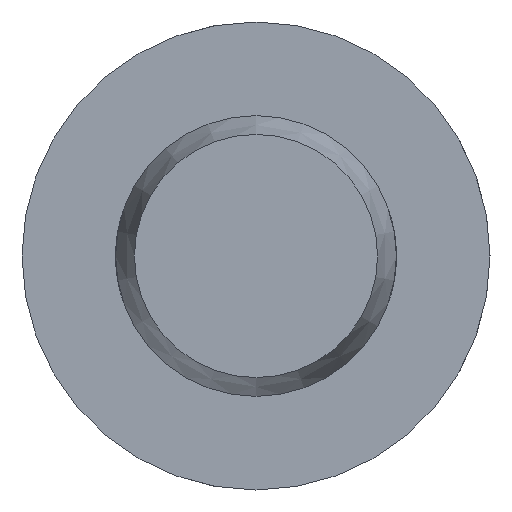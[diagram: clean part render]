
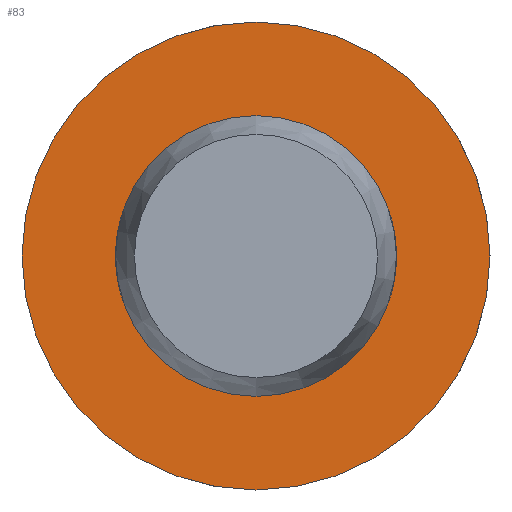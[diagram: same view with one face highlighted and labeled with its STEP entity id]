
A CAD part, left-side view. The second image highlights one B-rep face of the part: STEP entity #83.
In plain terms, the highlighted planar face has unit normal (-1, 0, 0).
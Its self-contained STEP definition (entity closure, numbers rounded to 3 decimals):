
#83 = ADVANCED_FACE( '', ( #129, #130 ), #131, .F. );
#129 = FACE_OUTER_BOUND( '', #208, .T. );
#130 = FACE_BOUND( '', #209, .T. );
#131 = PLANE( '', #210 );
#208 = EDGE_LOOP( '', ( #325 ) );
#209 = EDGE_LOOP( '', ( #326 ) );
#210 = AXIS2_PLACEMENT_3D( '', #327, #328, #329 );
#325 = ORIENTED_EDGE( '', *, *, #493, .F. );
#326 = ORIENTED_EDGE( '', *, *, #483, .T. );
#327 = CARTESIAN_POINT( '', ( 77., 3., 0. ) );
#328 = DIRECTION( '', ( 1., 0., 0. ) );
#329 = DIRECTION( '', ( 0., 0., -1. ) );
#483 = EDGE_CURVE( '', #554, #554, #555, .T. );
#493 = EDGE_CURVE( '', #572, #572, #573, .T. );
#554 = VERTEX_POINT( '', #741 );
#555 = CIRCLE( '', #742, 3. );
#572 = VERTEX_POINT( '', #850 );
#573 = CIRCLE( '', #851, 5. );
#741 = CARTESIAN_POINT( '', ( 77., 0., -3. ) );
#742 = AXIS2_PLACEMENT_3D( '', #914, #915, #916 );
#850 = CARTESIAN_POINT( '', ( 77., 0., -5. ) );
#851 = AXIS2_PLACEMENT_3D( '', #935, #936, #937 );
#914 = CARTESIAN_POINT( '', ( 77., 0., 0. ) );
#915 = DIRECTION( '', ( 1., 0., 0. ) );
#916 = DIRECTION( '', ( 0., 0., -1. ) );
#935 = CARTESIAN_POINT( '', ( 77., 0., 0. ) );
#936 = DIRECTION( '', ( 1., 0., 0. ) );
#937 = DIRECTION( '', ( 0., 0., -1. ) );
